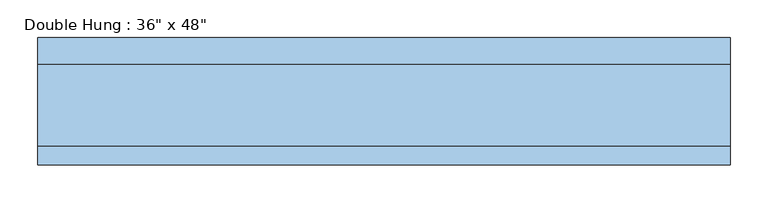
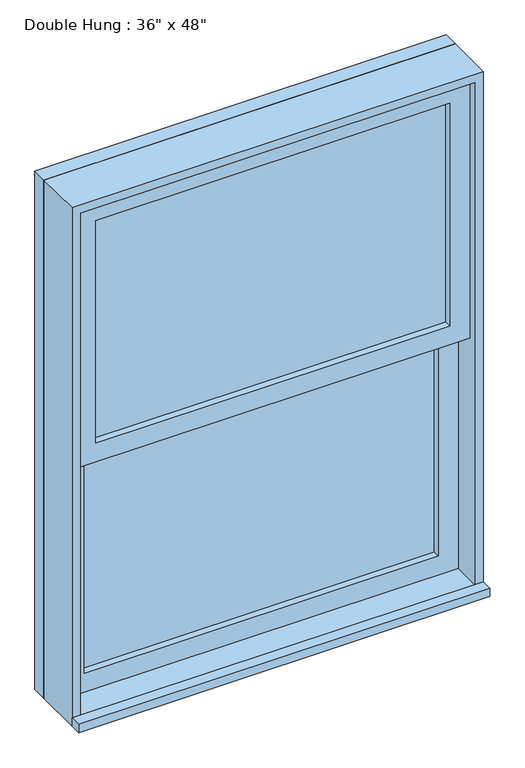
"""IFC4 building model written with IfcOpenShell, lengths in millimetres: window geometry."""

from ifc_helpers import new_model, si_unit, frame, origin, place, context, project, spatial, polyline, outline, extrude, source, transform, mapped, element, save


def window_0ee86fce(model_context):
    return source(origin(), model_context, "Body", "SweptSolid", [
        extrude(outline(polyline([(-393.7, 7.9375), (-393.7, 20.6375), (393.7, 20.6375), (393.7, 7.9375), (-393.7, 7.9375)])), frame((0.0, 0.0, 977.9), z_axis=(0.0, 0.0, 1.0), x_axis=(1.0, 0.0, 0.0)), (0.0, 0.0, 1.0), 523.875),
        extrude(outline(polyline([(1546.225, -438.15), (933.45, -438.15), (933.45, 438.15), (1546.225, 438.15), (1546.225, -438.15)]), holes=[polyline([(1501.775, -393.7), (1501.775, 393.7), (977.9, 393.7), (977.9, -393.7), (1501.775, -393.7)])]), frame((0.0, -7.9375, 0.0), z_axis=(0.0, 1.0, 0.0), x_axis=(0.0, 0.0, 1.0)), (0.0, 0.0, 1.0), 44.45),
        extrude(outline(polyline([(-457.2, -96.8375), (-457.2, -71.4375), (457.2, -71.4375), (457.2, -96.8375), (-457.2, -96.8375)])), frame((0.0, 0.0, 914.4), z_axis=(0.0, 0.0, 1.0), x_axis=(1.0, 0.0, 0.0)), (0.0, 0.0, 1.0), 19.05),
        extrude(outline(polyline([(393.7, -23.8125), (393.7, -36.5125), (-393.7, -36.5125), (-393.7, -23.8125), (393.7, -23.8125)])), frame((0.0, 0.0, 1546.225), z_axis=(0.0, 0.0, 1.0), x_axis=(1.0, 0.0, 0.0)), (0.0, 0.0, 1.0), 523.875),
        extrude(outline(polyline([(2114.55, -438.15), (1501.775, -438.15), (1501.775, 438.15), (2114.55, 438.15), (2114.55, -438.15)]), holes=[polyline([(2070.1, -393.7), (2070.1, 393.7), (1546.225, 393.7), (1546.225, -393.7), (2070.1, -393.7)])]), frame((0.0, -52.3875, 0.0), z_axis=(0.0, 1.0, 0.0), x_axis=(0.0, 0.0, 1.0)), (0.0, 0.0, 1.0), 44.45),
        extrude(outline(polyline([(2133.6, -457.2), (914.4, -457.2), (914.4, 457.2), (2133.6, 457.2), (2133.6, -457.2)]), holes=[polyline([(2101.85, -425.45), (2101.85, 425.45), (946.15, 425.45), (946.15, -425.45), (2101.85, -425.45)])]), frame((0.0, 36.5125, 0.0), z_axis=(0.0, 1.0, 0.0), x_axis=(0.0, 0.0, 1.0)), (0.0, 0.0, 1.0), 34.925),
        extrude(outline(polyline([(2133.6, 457.2), (2133.6, -457.2), (914.4, -457.2), (914.4, 457.2), (2133.6, 457.2)]), holes=[polyline([(2114.55, 438.15), (933.45, 438.15), (933.45, -438.15), (2114.55, -438.15), (2114.55, 438.15)])]), frame((0.0, -71.4375, 0.0), z_axis=(0.0, 1.0, 0.0), x_axis=(0.0, 0.0, 1.0)), (0.0, 0.0, 1.0), 107.95),
    ])


if __name__ == "__main__":
    model = new_model("IFC4")
    model_context = context("Model", 3, world=origin())
    ifc_project = project(units=[si_unit("LENGTHUNIT", "METRE", prefix="MILLI")], contexts=[model_context])
    site = spatial("IfcSite", under=ifc_project)
    building = spatial("IfcBuilding", under=site)
    placement = place(None, origin())
    window_shape = window_0ee86fce(model_context)
    element("IfcWindow", 1, ObjectType="Double Hung : 36\" x 48\"", at=placement, inside=building, context=model_context, shape_type="MappedRepresentation", body=[
        mapped(window_shape, transform((0.0, 0.0, 0.0), x_axis=(1.0, 0.0, 0.0), y_axis=(0.0, 1.0, 0.0), z_axis=(0.0, 0.0, 1.0))),
    ])
    save(model, "model.ifc")
